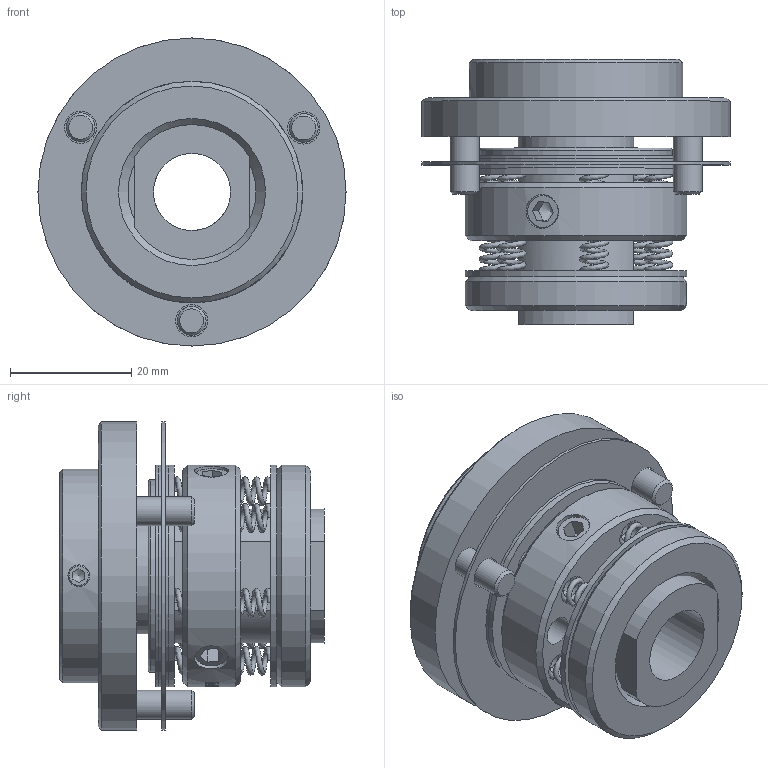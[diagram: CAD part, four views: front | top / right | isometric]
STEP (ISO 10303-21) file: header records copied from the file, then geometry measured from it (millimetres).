
FILE_DESCRIPTION((''),'2;1');
FILE_NAME('P:\Public\3-D CLUTCH ASSEMBLY FILES\PAS32\PAS32.stp','2013-01-21T15:45:36',('TodLob'),(''),'Autodesk Inventor 2011','Autodesk Inventor 2011','');
FILE_SCHEMA(('AUTOMOTIVE_DESIGN { 1 0 10303 214 1 1 1 1 }'));
Length unit declared in the file: inch
Products named in the file (15): PAS32; P3211; S3217-6A; S3219; S3215; S3221; S3213; S3238; S3214F; S3240; P3239; P3209; P3223; Hexagon Socket Set Screw - Flat Point - Inch 1/4-28 UNF x 0.38; Hexagon Socket Set Screw - Flat Point - Inch 8-32 UNC x 0.25
Assembly tree (24 placements, depth 2):
  PAS32
    P3211
    S3217-6A
    S3219
    S3215
    S3221  x2
    S3213
    S3238
    S3214F  x6
    S3240
    P3239
    P3209
    P3223  x3
    Hexagon Socket Set Screw - Flat Point - Inch 1/4-28 UNF x 0.38  x2
    Hexagon Socket Set Screw - Flat Point - Inch 8-32 UNC x 0.25  x2
Bounding box: 50.8 x 43.69 x 50.8 mm (x, y, z)
Volume: 37470.1 mm3; surface area: 31661.1 mm2
Topology: 24 solids, 24 shells, 859 faces, 1999 edges, 1306 vertices
Faces by surface type: plane 544, bspline 161, cylinder 108, cone 27, sphere 17, torus 2
Full cylindrical faces by diameter (mm): 1.168 x36, 3.454 x1, 3.556 x2, 4.166 x2, 4.763 x6, 4.877 x9, 5.309 x3, 5.613 x2, 6.35 x2, 12.7 x2, 19.05 x1, 19.101 x1, 21.082 x1, 22.225 x1, 22.327 x2, 23.8 x1, 31.75 x1, 35.179 x1, 36.5 x6, 36.513 x1, 50.8 x2
Entity records: 50186 total; most frequent: CARTESIAN_POINT 32462, ORIENTED_EDGE 3422, DIRECTION 3268, EDGE_CURVE 1711, VERTEX_POINT 1204, AXIS2_PLACEMENT_3D 1168, EDGE_LOOP 1135, VECTOR 932
